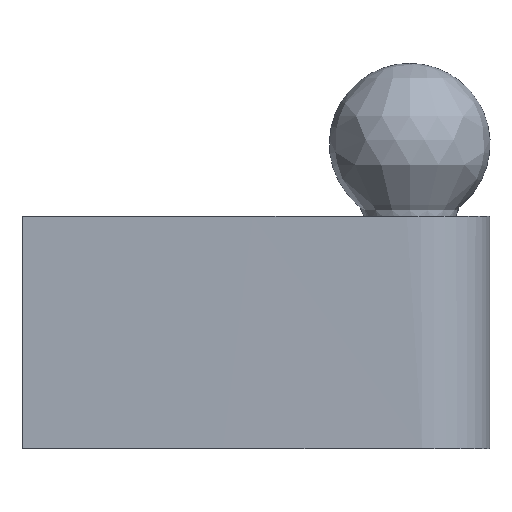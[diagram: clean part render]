
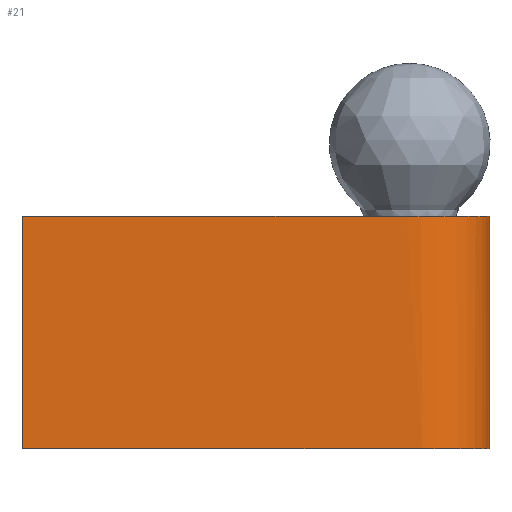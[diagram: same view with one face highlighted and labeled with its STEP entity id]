
A CAD part, left-side view. The second image highlights one B-rep face of the part: STEP entity #21.
In plain terms, the highlighted free-form (B-spline) face has degree [1, 2] with [2, 9] control points.
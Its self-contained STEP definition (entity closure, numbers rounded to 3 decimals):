
#21=ADVANCED_FACE('',(#28),#97,.T.);
#28=FACE_OUTER_BOUND('',#37,.T.);
#37=EDGE_LOOP('',(#53,#54,#55,#56));
#53=ORIENTED_EDGE('',*,*,#66,.T.);
#54=ORIENTED_EDGE('',*,*,#70,.F.);
#55=ORIENTED_EDGE('',*,*,#68,.T.);
#56=ORIENTED_EDGE('',*,*,#69,.F.);
#66=EDGE_CURVE('',#88,#87,#74,.T.);
#68=EDGE_CURVE('',#90,#89,#76,.T.);
#69=EDGE_CURVE('',#88,#89,#80,.T.);
#70=EDGE_CURVE('',#90,#87,#81,.T.);
#74=B_SPLINE_CURVE_WITH_KNOTS('',1,(#418,#419),.UNSPECIFIED.,.F.,.F.,(2,
2),(375.,440.),.UNSPECIFIED.);
#76=B_SPLINE_CURVE_WITH_KNOTS('',1,(#422,#423),.UNSPECIFIED.,.F.,.F.,(2,
2),(265.,330.),.UNSPECIFIED.);
#80=(
BOUNDED_CURVE()
B_SPLINE_CURVE(2,(#424,#425,#426,#427,#428,#429,#430,#431,#432),
 .UNSPECIFIED.,.F.,.F.)
B_SPLINE_CURVE_WITH_KNOTS((3,2,2,2,3),(-290.827,-182.327,
-145.414,-108.5,0.),.UNSPECIFIED.)
CURVE()
GEOMETRIC_REPRESENTATION_ITEM()
RATIONAL_B_SPLINE_CURVE((1.,1.,1.,0.707,1.,0.707,
1.,1.,1.))
REPRESENTATION_ITEM('')
);
#81=(
BOUNDED_CURVE()
B_SPLINE_CURVE(2,(#433,#434,#435,#436,#437,#438,#439,#440,#441),
 .UNSPECIFIED.,.F.,.F.)
B_SPLINE_CURVE_WITH_KNOTS((3,2,2,2,3),(0.,108.5,145.414,182.327,
290.827),.UNSPECIFIED.)
CURVE()
GEOMETRIC_REPRESENTATION_ITEM()
RATIONAL_B_SPLINE_CURVE((1.,1.,1.,0.707,1.,0.707,
1.,1.,1.))
REPRESENTATION_ITEM('')
);
#87=VERTEX_POINT('',#388);
#88=VERTEX_POINT('',#389);
#89=VERTEX_POINT('',#390);
#90=VERTEX_POINT('',#391);
#97=(
BOUNDED_SURFACE()
B_SPLINE_SURFACE(1,2,((#251,#252,#253,#254,#255,#256,#257,#258,#259),(#260,
#261,#262,#263,#264,#265,#266,#267,#268)),.UNSPECIFIED.,.F.,.F.,.F.)
B_SPLINE_SURFACE_WITH_KNOTS((2,2),(3,2,2,2,3),(0.,552.844),(-290.827,
-182.327,-145.414,-108.5,0.),.UNSPECIFIED.)
GEOMETRIC_REPRESENTATION_ITEM()
RATIONAL_B_SPLINE_SURFACE(((1.,1.,1.,0.707,1.,0.707,
1.,1.,1.),(1.,1.,1.,0.707,1.,0.707,1.,1.,1.)))
REPRESENTATION_ITEM('')
SURFACE()
);
#251=CARTESIAN_POINT('',(-92.107,17.938,-365.882));
#252=CARTESIAN_POINT('',(-92.107,-36.312,-365.882));
#253=CARTESIAN_POINT('',(-92.107,-90.562,-365.882));
#254=CARTESIAN_POINT('',(-92.107,-113.062,-365.882));
#255=CARTESIAN_POINT('',(-114.607,-113.062,-365.882));
#256=CARTESIAN_POINT('',(-137.107,-113.062,-365.882));
#257=CARTESIAN_POINT('',(-137.107,-90.562,-365.882));
#258=CARTESIAN_POINT('',(-137.107,-36.312,-365.882));
#259=CARTESIAN_POINT('',(-137.107,17.938,-365.882));
#260=CARTESIAN_POINT('',(-92.107,17.938,186.961));
#261=CARTESIAN_POINT('',(-92.107,-36.312,186.961));
#262=CARTESIAN_POINT('',(-92.107,-90.562,186.961));
#263=CARTESIAN_POINT('',(-92.107,-113.062,186.961));
#264=CARTESIAN_POINT('',(-114.607,-113.062,186.961));
#265=CARTESIAN_POINT('',(-137.107,-113.062,186.961));
#266=CARTESIAN_POINT('',(-137.107,-90.562,186.961));
#267=CARTESIAN_POINT('',(-137.107,-36.312,186.961));
#268=CARTESIAN_POINT('',(-137.107,17.938,186.961));
#388=CARTESIAN_POINT('',(-92.107,17.938,65.));
#389=CARTESIAN_POINT('',(-92.107,17.938,0.));
#390=CARTESIAN_POINT('',(-137.107,17.938,0.));
#391=CARTESIAN_POINT('',(-137.107,17.938,65.));
#418=CARTESIAN_POINT('',(-92.107,17.938,0.));
#419=CARTESIAN_POINT('',(-92.107,17.938,65.));
#422=CARTESIAN_POINT('',(-137.107,17.938,65.));
#423=CARTESIAN_POINT('',(-137.107,17.938,0.));
#424=CARTESIAN_POINT('',(-92.107,17.938,0.));
#425=CARTESIAN_POINT('',(-92.107,-36.312,0.));
#426=CARTESIAN_POINT('',(-92.107,-90.562,0.));
#427=CARTESIAN_POINT('',(-92.107,-113.062,0.));
#428=CARTESIAN_POINT('',(-114.607,-113.062,0.));
#429=CARTESIAN_POINT('',(-137.107,-113.062,0.));
#430=CARTESIAN_POINT('',(-137.107,-90.562,0.));
#431=CARTESIAN_POINT('',(-137.107,-36.312,0.));
#432=CARTESIAN_POINT('',(-137.107,17.938,0.));
#433=CARTESIAN_POINT('',(-137.107,17.938,65.));
#434=CARTESIAN_POINT('',(-137.107,-36.312,65.));
#435=CARTESIAN_POINT('',(-137.107,-90.562,65.));
#436=CARTESIAN_POINT('',(-137.107,-113.062,65.));
#437=CARTESIAN_POINT('',(-114.607,-113.062,65.));
#438=CARTESIAN_POINT('',(-92.107,-113.062,65.));
#439=CARTESIAN_POINT('',(-92.107,-90.562,65.));
#440=CARTESIAN_POINT('',(-92.107,-36.312,65.));
#441=CARTESIAN_POINT('',(-92.107,17.938,65.));
